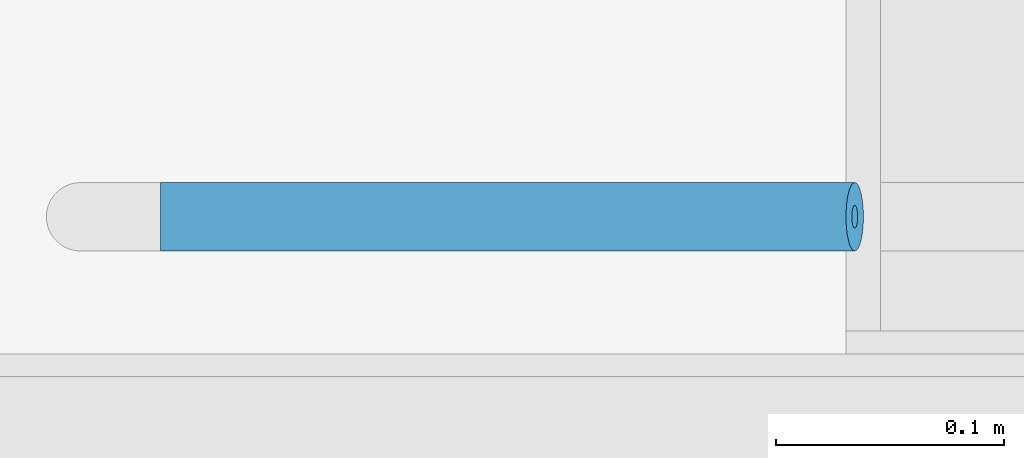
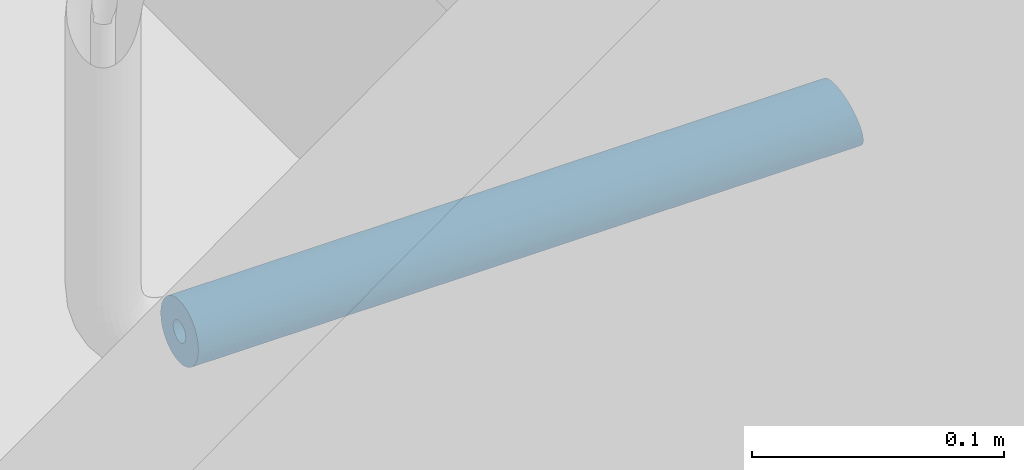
# One storey, part 217 of 301: 1 building element part, 1 element without a shape of its own.
"""IFC2X3 building model written with IfcOpenShell, lengths in millimetres."""

from ifc_helpers import new_model, entity, si_unit, converted_unit, derived_unit, money_unit, direction, frame, origin_with_axes, place, context, subcontext, project, spatial, faceted_brep, material, type_object, element, aggregate, save


model = new_model("IFC2X3")

# Units and contexts
model_context = context("Model", 3, precision=0.01, world=origin_with_axes(), true_north=direction((0.0, 1.0)))
body_context = subcontext(model_context, "Body", "Model", "MODEL_VIEW")
ifc_project = project(units=[si_unit("LENGTHUNIT", "METRE", prefix="MILLI"), si_unit("AREAUNIT", "SQUARE_METRE"), si_unit("VOLUMEUNIT", "CUBIC_METRE"), converted_unit("PLANEANGLEUNIT", "DEGREE", entity("IfcPlaneAngleMeasure", 0.0174532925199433), si_unit("PLANEANGLEUNIT", "RADIAN"), dimensions=[0, 0, 0, 0, 0, 0, 0]), money_unit("EUR"), converted_unit("TIMEUNIT", "Year", entity("IfcTimeMeasure", 31557600.0), si_unit("TIMEUNIT", "SECOND"), dimensions=[0, 0, 1, 0, 0, 0, 0]), si_unit("MASSUNIT", "GRAM", prefix="KILO"), si_unit("THERMODYNAMICTEMPERATUREUNIT", "DEGREE_CELSIUS"), si_unit("LUMINOUSINTENSITYUNIT", "LUMEN"), si_unit("ENERGYUNIT", "JOULE", prefix="MEGA"), derived_unit("THERMALCONDUCTANCEUNIT", [(si_unit("POWERUNIT", "WATT"), 1), (si_unit("LENGTHUNIT", "METRE"), -1), (si_unit("THERMODYNAMICTEMPERATUREUNIT", "KELVIN"), -1)]), derived_unit("SPECIFICHEATCAPACITYUNIT", [(si_unit("ENERGYUNIT", "JOULE"), 1), (si_unit("MASSUNIT", "GRAM", prefix="KILO"), -1), (si_unit("THERMODYNAMICTEMPERATUREUNIT", "KELVIN"), -1)]), derived_unit("MASSDENSITYUNIT", [(si_unit("MASSUNIT", "GRAM", prefix="KILO"), 1), (si_unit("VOLUMEUNIT", "CUBIC_METRE"), -1)])], contexts=[model_context])

# Site, building, storey
site_placement = place(None, frame((0.0, 0.0, 8650.0), z_axis=(0.0, 0.0, 1.0), x_axis=(1.0, 0.0, 0.0)))
site = spatial("IfcSite", under=ifc_project, at=site_placement, Name="43301:001:0844", CompositionType="ELEMENT")
building_placement = place(site_placement, origin_with_axes())
building = spatial("IfcBuilding", under=site, at=building_placement, Name="Kuressaare Ametikooli tuulikute mehaanikute õppekorpus", CompositionType="ELEMENT")
storey_placement = place(building_placement, origin_with_axes())
storey = spatial("IfcBuildingStorey", under=building, at=storey_placement, Name="1.korrus", CompositionType="ELEMENT", Elevation=0.0)

# Railing, building element part
railing_type = type_object("IfcRailingType", Name="Railing Type", PredefinedType="NOTDEFINED")
railing_placement = place(storey_placement, frame((107882.9493746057, 26509.57374875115, 157.6923606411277), z_axis=(0.0, 0.0, 1.0), x_axis=(1.0, 0.0, 0.0)))
railing = element("IfcRailing", 1, at=railing_placement, inside=storey, type_object=railing_type, Name="Piire", PredefinedType="NOTDEFINED")
ifc_material = material(Name="Metall - Teras - Roostevaba")
building_element_part_placement = place(railing_placement, origin_with_axes())
building_element_part = element("IfcBuildingElementPart", 2, at=building_element_part_placement, material=ifc_material, Name="Metall - Teras - Roostevaba", context=body_context, shape_type="Brep", body=[
    faceted_brep([(-917.032179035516, 45.00000000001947, 684.9999999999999), (-917.6945623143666, 45.2278837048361, 687.6047226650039), (-1220.846692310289, 45.2278837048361, 687.6047226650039), (-1220.846692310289, 45.00000000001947, 684.9999999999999), (-916.3697957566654, 45.2278837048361, 682.3952773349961), (-915.7275386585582, 45.90461068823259, 679.869697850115), (-915.1249223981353, 47.00961894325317, 677.5), (-914.5802571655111, 48.50933335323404, 675.3581858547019), (-914.1100923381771, 50.35818585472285, 673.5093333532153), (-913.7287136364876, 52.50000000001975, 672.0096189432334), (-913.4477090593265, 54.86969785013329, 670.9046106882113), (-913.2756167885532, 57.39527733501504, 670.2278837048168), (-913.2176657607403, 60.00000000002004, 669.9999999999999), (-913.2756167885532, 62.60472266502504, 670.2278837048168), (-913.4477090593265, 65.13030214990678, 670.9046106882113), (-913.7287136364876, 67.50000000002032, 672.0096189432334), (-914.1100923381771, 69.64181414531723, 673.5093333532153), (-914.5802571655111, 71.49066664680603, 675.3581858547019), (-915.1249223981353, 72.9903810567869, 677.5), (-915.7275386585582, 74.09538931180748, 679.869697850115), (-916.3697957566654, 74.77211629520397, 682.395277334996), (-917.032179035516, 75.0000000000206, 684.9999999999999), (-917.6945623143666, 74.77211629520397, 687.6047226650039), (-918.3368194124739, 74.09538931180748, 690.130302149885), (-918.939435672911, 72.9903810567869, 692.5), (-919.484100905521, 71.49066664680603, 694.641814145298), (-919.954265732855, 69.64181414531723, 696.4906666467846), (-920.3356444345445, 67.50000000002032, 697.9903810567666), (-920.6166490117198, 65.13030214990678, 699.0953893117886), (-920.7887412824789, 62.60472266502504, 699.7721162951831), (-920.8466923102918, 60.00000000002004, 700.0), (-920.7887412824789, 57.39527733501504, 699.7721162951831), (-920.6166490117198, 54.86969785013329, 699.0953893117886), (-920.3356444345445, 52.50000000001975, 697.9903810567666), (-919.954265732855, 50.35818585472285, 696.4906666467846), (-919.484100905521, 48.50933335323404, 694.641814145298), (-918.939435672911, 47.00961894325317, 692.5), (-918.3368194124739, 45.90461068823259, 690.130302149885), (-917.032179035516, 55.00000000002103, 684.9999999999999), (-917.2529734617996, 55.07596123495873, 685.8682408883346), (-917.4670591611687, 55.30153689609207, 686.7101007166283), (-917.6679312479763, 55.66987298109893, 687.5), (-917.8494863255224, 56.16977778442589, 688.2139380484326), (-918.0062079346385, 56.78606195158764, 688.8302222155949), (-918.1333341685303, 57.50000000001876, 689.3301270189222), (-918.227002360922, 58.28989928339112, 689.6984631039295), (-918.2843664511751, 59.13175911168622, 689.924038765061), (-918.3036834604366, 60.00000000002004, 690.0), (-918.2843664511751, 60.86824088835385, 689.924038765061), (-918.227002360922, 61.71010071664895, 689.6984631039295), (-918.1333341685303, 62.50000000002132, 689.3301270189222), (-918.0062079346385, 63.21393804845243, 688.8302222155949), (-917.8494863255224, 63.83022221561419, 688.2139380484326), (-917.6679312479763, 64.33012701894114, 687.5), (-917.4670591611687, 64.698463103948, 686.7101007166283), (-917.2529734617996, 64.92403876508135, 685.8682408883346), (-917.032179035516, 65.00000000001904, 684.9999999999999), (-916.8113846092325, 64.92403876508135, 684.1317591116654), (-916.5972989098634, 64.698463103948, 683.2898992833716), (-916.3964268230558, 64.33012701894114, 682.5), (-916.2148717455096, 63.83022221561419, 681.7860619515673), (-916.0581501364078, 63.21393804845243, 681.169777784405), (-915.9310239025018, 62.50000000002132, 680.6698729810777), (-915.8373557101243, 61.71010071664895, 680.3015368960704), (-915.779991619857, 60.86824088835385, 680.075961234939), (-915.7606746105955, 60.00000000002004, 679.9999999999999), (-915.779991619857, 59.13175911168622, 680.075961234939), (-915.8373557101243, 58.28989928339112, 680.3015368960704), (-915.9310239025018, 57.50000000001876, 680.6698729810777), (-916.0581501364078, 56.78606195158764, 681.169777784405), (-916.2148717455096, 56.16977778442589, 681.7860619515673), (-916.3964268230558, 55.66987298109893, 682.5), (-916.5972989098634, 55.30153689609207, 683.2898992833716), (-916.8113846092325, 55.07596123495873, 684.1317591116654), (-1220.846692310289, 45.90461068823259, 690.130302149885), (-1220.846692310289, 47.00961894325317, 692.5), (-1220.846692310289, 48.50933335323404, 694.641814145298), (-1220.846692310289, 50.35818585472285, 696.4906666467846), (-1220.846692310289, 52.50000000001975, 697.9903810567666), (-1220.846692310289, 54.86969785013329, 699.0953893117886), (-1220.846692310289, 57.39527733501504, 699.7721162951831), (-1220.846692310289, 60.00000000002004, 700.0), (-1220.846692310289, 62.60472266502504, 699.7721162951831), (-1220.846692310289, 65.13030214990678, 699.0953893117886), (-1220.846692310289, 67.50000000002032, 697.9903810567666), (-1220.846692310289, 69.64181414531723, 696.4906666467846), (-1220.846692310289, 71.49066664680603, 694.641814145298), (-1220.846692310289, 72.9903810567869, 692.5), (-1220.846692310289, 74.09538931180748, 690.130302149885), (-1220.846692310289, 74.77211629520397, 687.6047226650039), (-1220.846692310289, 75.0000000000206, 684.9999999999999), (-1220.846692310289, 74.77211629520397, 682.395277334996), (-1220.846692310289, 74.09538931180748, 679.869697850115), (-1220.846692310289, 72.9903810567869, 677.5), (-1220.846692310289, 71.49066664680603, 675.3581858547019), (-1220.846692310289, 69.64181414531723, 673.5093333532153), (-1220.846692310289, 67.50000000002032, 672.0096189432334), (-1220.846692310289, 65.13030214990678, 670.9046106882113), (-1220.846692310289, 62.60472266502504, 670.2278837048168), (-1220.846692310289, 60.00000000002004, 669.9999999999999), (-1220.846692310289, 57.39527733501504, 670.2278837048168), (-1220.846692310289, 54.86969785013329, 670.9046106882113), (-1220.846692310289, 52.50000000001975, 672.0096189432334), (-1220.846692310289, 50.35818585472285, 673.5093333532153), (-1220.846692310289, 48.50933335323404, 675.3581858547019), (-1220.846692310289, 47.00961894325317, 677.5), (-1220.846692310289, 45.90461068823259, 679.869697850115), (-1220.846692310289, 45.2278837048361, 682.3952773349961), (-1220.846692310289, 55.00000000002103, 684.9999999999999), (-1220.846692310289, 55.07596123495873, 684.1317591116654), (-1220.846692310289, 55.30153689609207, 683.2898992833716), (-1220.846692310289, 55.66987298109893, 682.5), (-1220.846692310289, 56.16977778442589, 681.7860619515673), (-1220.846692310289, 56.78606195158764, 681.169777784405), (-1220.846692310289, 57.50000000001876, 680.6698729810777), (-1220.846692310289, 58.28989928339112, 680.3015368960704), (-1220.846692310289, 59.13175911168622, 680.075961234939), (-1220.846692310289, 60.00000000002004, 679.9999999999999), (-1220.846692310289, 60.86824088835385, 680.075961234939), (-1220.846692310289, 61.71010071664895, 680.3015368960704), (-1220.846692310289, 62.50000000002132, 680.6698729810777), (-1220.846692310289, 63.21393804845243, 681.169777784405), (-1220.846692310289, 63.83022221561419, 681.7860619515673), (-1220.846692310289, 64.33012701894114, 682.5), (-1220.846692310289, 64.698463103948, 683.2898992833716), (-1220.846692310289, 64.92403876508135, 684.1317591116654), (-1220.846692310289, 65.00000000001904, 684.9999999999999), (-1220.846692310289, 64.92403876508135, 685.8682408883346), (-1220.846692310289, 64.698463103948, 686.7101007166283), (-1220.846692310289, 64.33012701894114, 687.5), (-1220.846692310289, 63.83022221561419, 688.2139380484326), (-1220.846692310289, 63.21393804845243, 688.8302222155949), (-1220.846692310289, 62.50000000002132, 689.3301270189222), (-1220.846692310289, 61.71010071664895, 689.6984631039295), (-1220.846692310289, 60.86824088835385, 689.924038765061), (-1220.846692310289, 60.00000000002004, 690.0), (-1220.846692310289, 59.13175911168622, 689.924038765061), (-1220.846692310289, 58.28989928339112, 689.6984631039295), (-1220.846692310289, 57.50000000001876, 689.3301270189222), (-1220.846692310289, 56.78606195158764, 688.8302222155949), (-1220.846692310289, 56.16977778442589, 688.2139380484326), (-1220.846692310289, 55.66987298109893, 687.5), (-1220.846692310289, 55.30153689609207, 686.7101007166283), (-1220.846692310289, 55.07596123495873, 685.8682408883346)], [[[0, 1, 2, 3]], [[0, 4, 5, 6, 7, 8, 9, 10, 11, 12, 13, 14, 15, 16, 17, 18, 19, 20, 21, 22, 23, 24, 25, 26, 27, 28, 29, 30, 31, 32, 33, 34, 35, 36, 37, 1], [38, 39, 40, 41, 42, 43, 44, 45, 46, 47, 48, 49, 50, 51, 52, 53, 54, 55, 56, 57, 58, 59, 60, 61, 62, 63, 64, 65, 66, 67, 68, 69, 70, 71, 72, 73]], [[1, 37, 74, 2]], [[3, 2, 74, 75, 76, 77, 78, 79, 80, 81, 82, 83, 84, 85, 86, 87, 88, 89, 90, 91, 92, 93, 94, 95, 96, 97, 98, 99, 100, 101, 102, 103, 104, 105, 106, 107], [108, 109, 110, 111, 112, 113, 114, 115, 116, 117, 118, 119, 120, 121, 122, 123, 124, 125, 126, 127, 128, 129, 130, 131, 132, 133, 134, 135, 136, 137, 138, 139, 140, 141, 142, 143]], [[4, 0, 3, 107]], [[5, 4, 107, 106]], [[6, 5, 106, 105]], [[7, 6, 105, 104]], [[8, 7, 104, 103]], [[9, 8, 103, 102]], [[10, 9, 102, 101]], [[11, 10, 101, 100]], [[12, 11, 100, 99]], [[13, 12, 99, 98]], [[14, 13, 98, 97]], [[15, 14, 97, 96]], [[16, 15, 96, 95]], [[17, 16, 95, 94]], [[18, 17, 94, 93]], [[19, 18, 93, 92]], [[20, 19, 92, 91]], [[21, 20, 91, 90]], [[22, 21, 90, 89]], [[23, 22, 89, 88]], [[24, 23, 88, 87]], [[25, 24, 87, 86]], [[26, 25, 86, 85]], [[27, 26, 85, 84]], [[28, 27, 84, 83]], [[29, 28, 83, 82]], [[30, 29, 82, 81]], [[31, 30, 81, 80]], [[32, 31, 80, 79]], [[33, 32, 79, 78]], [[34, 33, 78, 77]], [[35, 34, 77, 76]], [[36, 35, 76, 75]], [[37, 36, 75, 74]], [[39, 38, 108, 143]], [[40, 39, 143, 142]], [[41, 40, 142, 141]], [[42, 41, 141, 140]], [[43, 42, 140, 139]], [[44, 43, 139, 138]], [[45, 44, 138, 137]], [[46, 45, 137, 136]], [[47, 46, 136, 135]], [[48, 47, 135, 134]], [[49, 48, 134, 133]], [[50, 49, 133, 132]], [[51, 50, 132, 131]], [[52, 51, 131, 130]], [[53, 52, 130, 129]], [[54, 53, 129, 128]], [[55, 54, 128, 127]], [[56, 55, 127, 126]], [[57, 56, 126, 125]], [[58, 57, 125, 124]], [[59, 58, 124, 123]], [[60, 59, 123, 122]], [[61, 60, 122, 121]], [[62, 61, 121, 120]], [[63, 62, 120, 119]], [[64, 63, 119, 118]], [[65, 64, 118, 117]], [[66, 65, 117, 116]], [[67, 66, 116, 115]], [[68, 67, 115, 114]], [[69, 68, 114, 113]], [[70, 69, 113, 112]], [[71, 70, 112, 111]], [[72, 71, 111, 110]], [[73, 72, 110, 109]], [[38, 73, 109, 108]]]),
])
aggregate(railing, [building_element_part])

save(model, "model.ifc")
